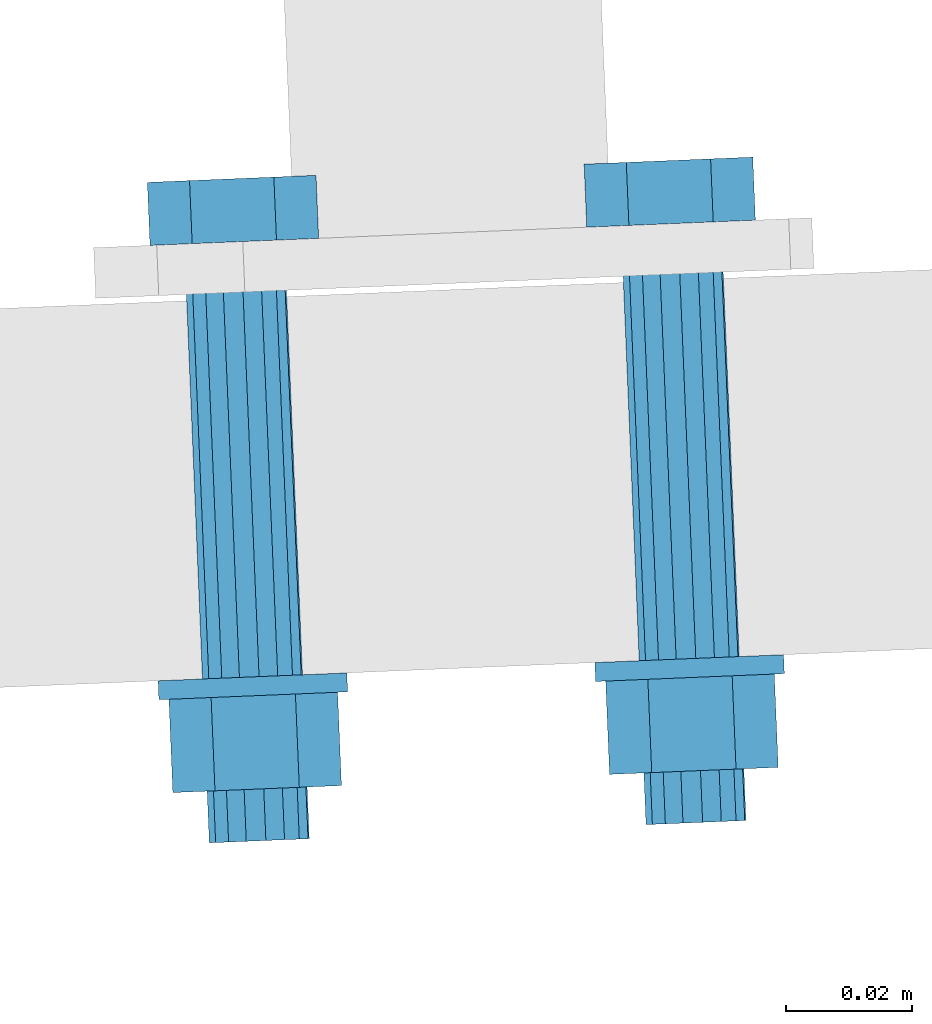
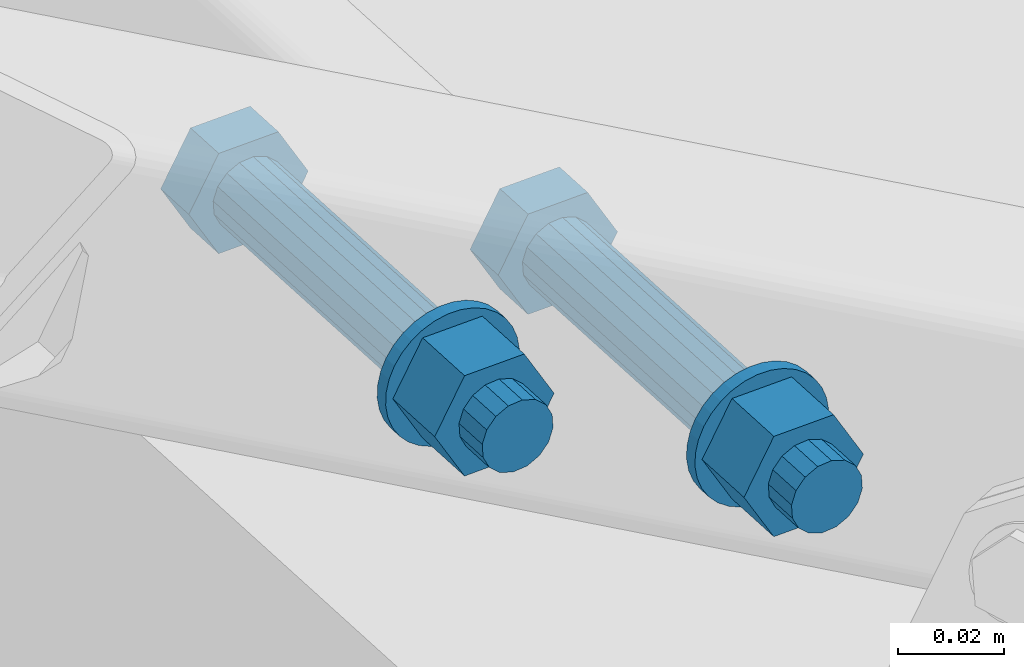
# One storey, part 100 of 288: 1 mechanical fastener.
"""IFC2X3 building model written with IfcOpenShell, lengths in millimetres."""

from ifc_helpers import new_model, entity, si_unit, converted_unit, origin_with_axes, place, context, project, spatial, faceted_brep, element, save


model = new_model("IFC2X3")

# Units and contexts
model_context = context("Model", 3, precision=1e-09, world=origin_with_axes())
ifc_project = project(units=[si_unit("LENGTHUNIT", "METRE", prefix="MILLI"), si_unit("AREAUNIT", "SQUARE_METRE"), si_unit("VOLUMEUNIT", "CUBIC_METRE"), converted_unit("PLANEANGLEUNIT", "DEGREE", entity("IfcPlaneAngleMeasure", 0.01745329), si_unit("PLANEANGLEUNIT", "RADIAN"), dimensions=[0, 0, 0, 0, 0, 0, 0])], contexts=[model_context])

# Site, building, storey
site_placement = place(None, origin_with_axes())
site = spatial("IfcSite", under=ifc_project, at=site_placement, Name="Remont ?wietlik?w nad MC w NCPP w Opolu", CompositionType="ELEMENT")
building_placement = place(site_placement, origin_with_axes())
building = spatial("IfcBuilding", under=site, at=building_placement, Name="Konstrukcja 1", CompositionType="ELEMENT")
storey_placement = place(building_placement, origin_with_axes())
storey = spatial("IfcBuildingStorey", under=building, at=storey_placement, Name="Default Storey", CompositionType="ELEMENT", Elevation=0.0)

# Mechanical fastener
mechanical_fastener_placement = place(None, origin_with_axes())
element("IfcMechanicalFastener", 1, at=mechanical_fastener_placement, inside=storey, ObjectType="-", NominalDiameter=16.0, NominalLength=95.0, context=model_context, shape_type="Brep", body=[
    faceted_brep([(1525.213328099, 2067.778686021, 256.974013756), (1524.796611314, 2077.769999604, 256.974012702), (1531.478306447, 2078.048677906, 245.390925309), (1531.895023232, 2068.057364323, 245.390926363), (1544.841688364, 2078.606036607, 245.390930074), (1545.25840515, 2068.614723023, 245.390931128), (1551.523375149, 2078.884717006, 256.974022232), (1551.940091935, 2068.893403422, 256.974023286), (1544.841680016, 2078.606038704, 268.557109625), (1545.258396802, 2068.61472512, 268.557110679), (1531.478298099, 2078.048680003, 268.55710486), (1531.895014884, 2068.05736642, 268.557105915)], [[[0, 1, 2, 3]], [[3, 2, 4, 5]], [[5, 4, 6, 7]], [[7, 6, 8, 9]], [[9, 8, 10, 11]], [[11, 10, 1, 0]], [[4, 2, 1, 10, 8, 6]], [[0, 3, 5, 7, 9, 11]]]),
    faceted_brep([(1594.435193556, 2070.66578098, 216.974038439), (1594.01847677, 2080.657094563, 216.974037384), (1600.700171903, 2080.935772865, 205.390949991), (1601.116888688, 2070.944459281, 205.390951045), (1614.063553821, 2081.493131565, 205.390954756), (1614.480270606, 2071.501817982, 205.39095581), (1620.745240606, 2081.771811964, 216.974046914), (1621.161957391, 2071.780498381, 216.974047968), (1614.063545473, 2081.493133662, 228.557134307), (1614.480262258, 2071.501820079, 228.557135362), (1600.700163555, 2080.935774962, 228.557129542), (1601.116880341, 2070.944461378, 228.557130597)], [[[0, 1, 2, 3]], [[3, 2, 4, 5]], [[5, 4, 6, 7]], [[7, 6, 8, 9]], [[9, 8, 10, 11]], [[11, 10, 1, 0]], [[4, 2, 1, 10, 8, 6]], [[0, 3, 5, 7, 9, 11]]]),
    faceted_brep([(1545.498880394, 2068.625141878, 252.97402099), (1548.37423595, 1999.684844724, 252.974028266), (1546.317912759, 1999.599079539, 250.627200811), (1543.442557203, 2068.539376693, 250.627193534), (1543.520805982, 1999.482417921, 249.246619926), (1540.645450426, 2068.422715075, 249.246612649), (1540.408749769, 1999.352620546, 249.042466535), (1537.533394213, 2068.2929177, 249.042459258), (1537.455526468, 1999.229447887, 250.045821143), (1534.580170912, 2068.169745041, 250.045813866), (1535.110737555, 1999.131651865, 252.103932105), (1532.235381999, 2068.071949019, 252.103924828), (1533.731355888, 1999.074121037, 254.903470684), (1530.856000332, 2068.014418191, 254.903463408), (1533.52737982, 1999.065613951, 258.01823251), (1530.652024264, 2068.005911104, 258.018225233), (1534.529862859, 1999.107425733, 260.97402333), (1531.654507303, 2068.047722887, 260.974016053), (1536.58618605, 1999.193190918, 263.320850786), (1533.710830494, 2068.133488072, 263.320843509), (1539.383292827, 1999.309852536, 264.701431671), (1536.507937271, 2068.25014969, 264.701424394), (1542.49534904, 1999.439649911, 264.905585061), (1539.619993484, 2068.379947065, 264.905577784), (1545.448572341, 1999.56282257, 263.902230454), (1542.573216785, 2068.503119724, 263.902223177), (1547.793361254, 1999.660618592, 261.844119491), (1544.918005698, 2068.600915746, 261.844112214), (1549.172742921, 1999.71814942, 259.044580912), (1546.297387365, 2068.658446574, 259.044573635), (1549.376718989, 1999.726656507, 255.929819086), (1546.501363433, 2068.666953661, 255.929811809)], [[[0, 1, 2, 3]], [[3, 2, 4, 5]], [[5, 4, 6, 7]], [[7, 6, 8, 9]], [[9, 8, 10, 11]], [[11, 10, 12, 13]], [[13, 12, 14, 15]], [[15, 14, 16, 17]], [[17, 16, 18, 19]], [[19, 18, 20, 21]], [[21, 20, 22, 23]], [[23, 22, 24, 25]], [[25, 24, 26, 27]], [[27, 26, 28, 29]], [[29, 28, 30, 31]], [[31, 30, 1, 0]], [[0, 3, 5, 7, 9, 11, 13, 15, 17, 19, 21, 23, 25, 27, 29, 31]], [[1, 30, 28, 26, 24, 22, 20, 18, 16, 14, 12, 10, 8, 6, 4, 2]]]),
    faceted_brep([(1614.720745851, 2071.512236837, 212.974045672), (1617.596101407, 2002.571939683, 212.974052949), (1615.539778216, 2002.486174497, 210.627225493), (1612.66442266, 2071.426471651, 210.627218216), (1612.742671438, 2002.36951288, 209.246644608), (1609.867315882, 2071.309810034, 209.246637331), (1609.630615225, 2002.239715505, 209.042491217), (1606.755259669, 2071.180012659, 209.04248394), (1606.677391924, 2002.116542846, 210.045845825), (1603.802036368, 2071.05684, 210.045838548), (1604.332603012, 2002.018746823, 212.103956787), (1601.457247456, 2070.959043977, 212.10394951), (1602.953221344, 2001.961215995, 214.903495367), (1600.077865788, 2070.901513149, 214.90348809), (1602.749245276, 2001.952708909, 218.018257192), (1599.87388972, 2070.893006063, 218.018249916), (1603.751728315, 2001.994520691, 220.974048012), (1600.876372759, 2070.934817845, 220.974040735), (1605.808051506, 2002.080285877, 223.320875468), (1602.93269595, 2071.020583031, 223.320868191), (1608.605158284, 2002.196947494, 224.701456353), (1605.729802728, 2071.137244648, 224.701449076), (1611.717214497, 2002.326744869, 224.905609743), (1608.841858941, 2071.267042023, 224.905602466), (1614.670437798, 2002.449917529, 223.902255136), (1611.795082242, 2071.390214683, 223.902247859), (1617.01522671, 2002.547713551, 221.844144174), (1614.139871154, 2071.488010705, 221.844136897), (1618.394608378, 2002.605244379, 219.044605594), (1615.519252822, 2071.545541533, 219.044598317), (1618.598584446, 2002.613751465, 215.929843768), (1615.72322889, 2071.554048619, 215.929836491)], [[[0, 1, 2, 3]], [[3, 2, 4, 5]], [[5, 4, 6, 7]], [[7, 6, 8, 9]], [[9, 8, 10, 11]], [[11, 10, 12, 13]], [[13, 12, 14, 15]], [[15, 14, 16, 17]], [[17, 16, 18, 19]], [[19, 18, 20, 21]], [[21, 20, 22, 23]], [[23, 22, 24, 25]], [[25, 24, 26, 27]], [[27, 26, 28, 29]], [[29, 28, 30, 31]], [[31, 30, 1, 0]], [[0, 3, 5, 7, 9, 11, 13, 15, 17, 19, 21, 23, 25, 27, 29, 31]], [[1, 30, 28, 26, 24, 22, 20, 18, 16, 14, 12, 10, 8, 6, 4, 2]]]),
    faceted_brep([(1554.431149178, 1999.937465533, 249.474030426), (1554.556164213, 1996.940071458, 249.474030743), (1552.844868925, 1996.86869666, 247.083842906), (1552.71985389, 1999.866090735, 247.083842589), (1550.70055823, 1996.779261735, 245.073729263), (1550.575543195, 1999.77665581, 245.073728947), (1548.205636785, 1996.675203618, 243.520937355), (1548.08062175, 1999.672597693, 243.520937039), (1545.455983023, 1996.560521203, 242.485140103), (1545.330967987, 1999.557915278, 242.485139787), (1542.557264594, 1996.439621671, 242.006142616), (1542.432249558, 1999.437015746, 242.006142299), (1539.620877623, 1996.317151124, 242.102352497), (1539.495862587, 1999.314545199, 242.10235218), (1536.759665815, 1996.197816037, 242.770072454), (1536.634650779, 1999.195210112, 242.770072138), (1534.083583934, 1996.086202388, 243.983642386), (1533.958568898, 1999.083596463, 243.98364207), (1531.695472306, 1995.98659943, 245.696425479), (1531.570457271, 1998.983993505, 245.696425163), (1529.687104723, 1995.902834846, 247.84260044), (1529.562089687, 1998.900228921, 247.842600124), (1528.135661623, 1995.838127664, 250.339690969), (1528.010646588, 1998.835521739, 250.339690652), (1527.100764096, 1995.794964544, 253.091735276), (1526.97574906, 1998.792358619, 253.09173496), (1526.622182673, 1995.77500422, 255.992973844), (1526.497167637, 1998.772398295, 255.992973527), (1526.718308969, 1995.779013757, 258.9319137), (1526.593293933, 1998.776407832, 258.931913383), (1527.385448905, 1995.80683907, 261.795613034), (1527.260433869, 1998.804233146, 261.795612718), (1528.597964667, 1995.857410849, 264.474021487), (1528.472949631, 1998.854804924, 264.47402117), (1530.309259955, 1995.928785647, 266.864209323), (1530.184244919, 1998.926179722, 266.864209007), (1532.45357065, 1996.018220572, 268.874322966), (1532.328555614, 1999.015614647, 268.874322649), (1534.948492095, 1996.12227869, 270.427114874), (1534.823477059, 1999.119672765, 270.427114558), (1537.698145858, 1996.236961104, 271.462912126), (1537.573130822, 1999.234355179, 271.462911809), (1540.596864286, 1996.357860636, 271.941909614), (1540.471849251, 1999.355254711, 271.941909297), (1543.533251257, 1996.480331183, 271.845699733), (1543.408236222, 1999.477725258, 271.845699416), (1546.394463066, 1996.59966627, 271.177979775), (1546.26944803, 1999.597060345, 271.177979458), (1549.070544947, 1996.711279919, 269.964409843), (1548.945529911, 1999.708673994, 269.964409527), (1551.458656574, 1996.810882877, 268.25162675), (1551.333641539, 1999.808276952, 268.251626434), (1553.467024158, 1996.894647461, 266.105451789), (1553.342009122, 1999.892041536, 266.105451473), (1555.018467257, 1996.959354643, 263.608361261), (1554.893452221, 1999.956748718, 263.608360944), (1556.053364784, 1997.002517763, 260.856316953), (1555.928349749, 1999.999911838, 260.856316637), (1556.531946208, 1997.022478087, 257.955078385), (1556.406931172, 2000.019872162, 257.955078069), (1556.435819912, 1997.01846855, 255.016138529), (1556.310804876, 2000.015862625, 255.016138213), (1555.768679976, 1996.990643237, 252.152439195), (1555.64366494, 1999.988037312, 252.152438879)], [[[0, 1, 2, 3]], [[3, 2, 4, 5]], [[5, 4, 6, 7]], [[7, 6, 8, 9]], [[9, 8, 10, 11]], [[11, 10, 12, 13]], [[13, 12, 14, 15]], [[15, 14, 16, 17]], [[17, 16, 18, 19]], [[19, 18, 20, 21]], [[21, 20, 22, 23]], [[23, 22, 24, 25]], [[25, 24, 26, 27]], [[27, 26, 28, 29]], [[29, 28, 30, 31]], [[31, 30, 32, 33]], [[33, 32, 34, 35]], [[35, 34, 36, 37]], [[37, 36, 38, 39]], [[39, 38, 40, 41]], [[41, 40, 42, 43]], [[43, 42, 44, 45]], [[45, 44, 46, 47]], [[47, 46, 48, 49]], [[49, 48, 50, 51]], [[51, 50, 52, 53]], [[53, 52, 54, 55]], [[55, 54, 56, 57]], [[57, 56, 58, 59]], [[59, 58, 60, 61]], [[61, 60, 62, 63]], [[63, 62, 1, 0]], [[0, 3, 5, 7, 9, 11, 13, 15, 17, 19, 21, 23, 25, 27, 29, 31, 33, 35, 37, 39, 41, 43, 45, 47, 49, 51, 53, 55, 57, 59, 61, 63]], [[1, 62, 60, 58, 56, 54, 52, 50, 48, 46, 44, 42, 40, 38, 36, 34, 32, 30, 28, 26, 24, 22, 20, 18, 16, 14, 12, 10, 8, 6, 4, 2]]]),
    faceted_brep([(1623.653014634, 2002.824560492, 209.474055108), (1623.77802967, 1999.827166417, 209.474055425), (1622.066734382, 1999.755791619, 207.083867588), (1621.941719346, 2002.753185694, 207.083867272), (1619.922423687, 1999.666356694, 205.073753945), (1619.797408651, 2002.663750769, 205.073753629), (1617.427502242, 1999.562298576, 203.520962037), (1617.302487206, 2002.559692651, 203.520961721), (1614.677848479, 1999.447616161, 202.485164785), (1614.552833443, 2002.445010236, 202.485164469), (1611.77913005, 1999.32671663, 202.006167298), (1611.654115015, 2002.324110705, 202.006166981), (1608.84274308, 1999.204246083, 202.102377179), (1608.717728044, 2002.201640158, 202.102376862), (1605.981531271, 1999.084910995, 202.770097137), (1605.856516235, 2002.08230507, 202.77009682), (1603.30544939, 1998.973297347, 203.983667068), (1603.180434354, 2001.970691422, 203.983666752), (1600.917337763, 1998.873694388, 205.696450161), (1600.792322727, 2001.871088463, 205.696449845), (1598.908970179, 1998.789929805, 207.842625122), (1598.783955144, 2001.78732388, 207.842624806), (1597.35752708, 1998.725222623, 210.339715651), (1597.232512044, 2001.722616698, 210.339715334), (1596.322629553, 1998.682059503, 213.091759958), (1596.197614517, 2001.679453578, 213.091759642), (1595.844048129, 1998.662099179, 215.992998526), (1595.719033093, 2001.659493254, 215.99299821), (1595.940174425, 1998.666108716, 218.931938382), (1595.81515939, 2001.663502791, 218.931938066), (1596.607314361, 1998.693934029, 221.795637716), (1596.482299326, 2001.691328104, 221.7956374), (1597.819830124, 1998.744505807, 224.474046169), (1597.694815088, 2001.741899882, 224.474045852), (1599.531125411, 1998.815880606, 226.864234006), (1599.406110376, 2001.813274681, 226.864233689), (1601.675436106, 1998.905315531, 228.874347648), (1601.550421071, 2001.902709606, 228.874347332), (1604.170357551, 1999.009373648, 230.427139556), (1604.045342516, 2002.006767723, 230.42713924), (1606.920011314, 1999.124056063, 231.462936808), (1606.794996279, 2002.121450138, 231.462936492), (1609.818729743, 1999.244955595, 231.941934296), (1609.693714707, 2002.24234967, 231.941933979), (1612.755116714, 1999.367426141, 231.845724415), (1612.630101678, 2002.364820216, 231.845724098), (1615.616328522, 1999.486761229, 231.178004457), (1615.491313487, 2002.484155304, 231.17800414), (1618.292410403, 1999.598374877, 229.964434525), (1618.167395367, 2002.595768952, 229.964434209), (1620.680522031, 1999.697977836, 228.251651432), (1620.555506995, 2002.695371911, 228.251651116), (1622.688889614, 1999.781742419, 226.105476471), (1622.563874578, 2002.779136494, 226.105476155), (1624.240332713, 1999.846449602, 223.608385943), (1624.115317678, 2002.843843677, 223.608385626), (1625.275230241, 1999.889612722, 220.856341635), (1625.150215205, 2002.887006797, 220.856341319), (1625.753811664, 1999.909573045, 217.955103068), (1625.628796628, 2002.90696712, 217.955102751), (1625.657685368, 1999.905563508, 215.016163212), (1625.532670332, 2002.902957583, 215.016162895), (1624.990545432, 1999.877738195, 212.152463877), (1624.865530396, 2002.87513227, 212.152463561)], [[[0, 1, 2, 3]], [[3, 2, 4, 5]], [[5, 4, 6, 7]], [[7, 6, 8, 9]], [[9, 8, 10, 11]], [[11, 10, 12, 13]], [[13, 12, 14, 15]], [[15, 14, 16, 17]], [[17, 16, 18, 19]], [[19, 18, 20, 21]], [[21, 20, 22, 23]], [[23, 22, 24, 25]], [[25, 24, 26, 27]], [[27, 26, 28, 29]], [[29, 28, 30, 31]], [[31, 30, 32, 33]], [[33, 32, 34, 35]], [[35, 34, 36, 37]], [[37, 36, 38, 39]], [[39, 38, 40, 41]], [[41, 40, 42, 43]], [[43, 42, 44, 45]], [[45, 44, 46, 47]], [[47, 46, 48, 49]], [[49, 48, 50, 51]], [[51, 50, 52, 53]], [[53, 52, 54, 55]], [[55, 54, 56, 57]], [[57, 56, 58, 59]], [[59, 58, 60, 61]], [[61, 60, 62, 63]], [[63, 62, 1, 0]], [[0, 3, 5, 7, 9, 11, 13, 15, 17, 19, 21, 23, 25, 27, 29, 31, 33, 35, 37, 39, 41, 43, 45, 47, 49, 51, 53, 55, 57, 59, 61, 63]], [[1, 62, 60, 58, 56, 54, 52, 50, 48, 46, 44, 42, 40, 38, 36, 34, 32, 30, 28, 26, 24, 22, 20, 18, 16, 14, 12, 10, 8, 6, 4, 2]]]),
    faceted_brep([(1528.830423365, 1981.05423835, 256.974022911), (1528.213682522, 1995.841382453, 256.97402135), (1534.895377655, 1996.120060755, 245.390933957), (1535.512118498, 1981.332916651, 245.390935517), (1548.258759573, 1996.677419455, 245.390938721), (1548.875500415, 1981.890275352, 245.390940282), (1554.940446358, 1996.956099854, 256.97403088), (1555.5571872, 1982.168955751, 256.97403244), (1548.258751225, 1996.677421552, 268.557118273), (1548.875492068, 1981.890277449, 268.557119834), (1534.895369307, 1996.120062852, 268.557113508), (1535.51211015, 1981.332918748, 268.557115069)], [[[0, 1, 2, 3]], [[3, 2, 4, 5]], [[5, 4, 6, 7]], [[7, 6, 8, 9]], [[9, 8, 10, 11]], [[11, 10, 1, 0]], [[4, 2, 1, 10, 8, 6]], [[0, 3, 5, 7, 9, 11]]]),
    faceted_brep([(1598.052288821, 1983.941333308, 216.974047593), (1597.435547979, 1998.728477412, 216.974046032), (1604.117243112, 1999.007155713, 205.390958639), (1604.733983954, 1984.22001161, 205.3909602), (1617.480625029, 1999.564514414, 205.390963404), (1618.097365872, 1984.777370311, 205.390964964), (1624.162311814, 1999.843194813, 216.974055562), (1624.779052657, 1985.05605071, 216.974057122), (1617.480616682, 1999.564516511, 228.557142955), (1618.097357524, 1984.777372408, 228.557144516), (1604.117234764, 1999.00715781, 228.55713819), (1604.733975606, 1984.220013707, 228.557139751)], [[[0, 1, 2, 3]], [[3, 2, 4, 5]], [[5, 4, 6, 7]], [[7, 6, 8, 9]], [[9, 8, 10, 11]], [[11, 10, 1, 0]], [[4, 2, 1, 10, 8, 6]], [[0, 3, 5, 7, 9, 11]]]),
    faceted_brep([(1549.116007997, 1981.899918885, 252.974030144), (1549.457706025, 1973.707275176, 252.974031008), (1547.401382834, 1973.62150999, 250.627203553), (1547.059684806, 1981.814153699, 250.627202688), (1544.604276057, 1973.504848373, 249.246622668), (1544.262578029, 1981.697492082, 249.246621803), (1541.492219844, 1973.375050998, 249.042469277), (1541.150521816, 1981.567694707, 249.042468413), (1538.538996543, 1973.251878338, 250.045823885), (1538.197298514, 1981.444522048, 250.04582302), (1536.19420763, 1973.154082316, 252.103934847), (1535.852509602, 1981.346726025, 252.103933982), (1534.814825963, 1973.096551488, 254.903473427), (1534.473127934, 1981.289195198, 254.903472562), (1534.610849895, 1973.088044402, 258.018235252), (1534.269151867, 1981.280688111, 258.018234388), (1535.613332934, 1973.129856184, 260.974026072), (1535.271634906, 1981.322499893, 260.974025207), (1537.669656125, 1973.21562137, 263.320853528), (1537.327958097, 1981.408265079, 263.320852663), (1540.466762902, 1973.332282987, 264.701434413), (1540.125064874, 1981.524926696, 264.701433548), (1543.578819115, 1973.462080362, 264.905587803), (1543.237121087, 1981.654724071, 264.905586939), (1546.532042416, 1973.585253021, 263.902233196), (1546.190344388, 1981.777896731, 263.902232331), (1548.876831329, 1973.683049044, 261.844122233), (1548.535133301, 1981.875692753, 261.844121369), (1550.256212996, 1973.740579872, 259.044583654), (1549.914514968, 1981.933223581, 259.044582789), (1550.460189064, 1973.749086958, 255.929821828), (1550.118491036, 1981.941730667, 255.929820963)], [[[0, 1, 2, 3]], [[3, 2, 4, 5]], [[5, 4, 6, 7]], [[7, 6, 8, 9]], [[9, 8, 10, 11]], [[11, 10, 12, 13]], [[13, 12, 14, 15]], [[15, 14, 16, 17]], [[17, 16, 18, 19]], [[19, 18, 20, 21]], [[21, 20, 22, 23]], [[23, 22, 24, 25]], [[25, 24, 26, 27]], [[27, 26, 28, 29]], [[29, 28, 30, 31]], [[31, 30, 1, 0]], [[0, 3, 5, 7, 9, 11, 13, 15, 17, 19, 21, 23, 25, 27, 29, 31]], [[1, 30, 28, 26, 24, 22, 20, 18, 16, 14, 12, 10, 8, 6, 4, 2]]]),
    faceted_brep([(1618.337873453, 1984.787013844, 212.974054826), (1618.679571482, 1976.594370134, 212.974055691), (1616.623248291, 1976.508604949, 210.627228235), (1616.281550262, 1984.701248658, 210.62722737), (1613.826141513, 1976.391943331, 209.24664735), (1613.484443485, 1984.584587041, 209.246646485), (1610.7140853, 1976.262145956, 209.042493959), (1610.372387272, 1984.454789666, 209.042493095), (1607.760861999, 1976.138973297, 210.045848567), (1607.419163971, 1984.331617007, 210.045847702), (1605.416073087, 1976.041177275, 212.103959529), (1605.074375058, 1984.233820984, 212.103958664), (1604.036691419, 1975.983646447, 214.903498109), (1603.694993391, 1984.176290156, 214.903497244), (1603.832715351, 1975.97513936, 218.018259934), (1603.491017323, 1984.16778307, 218.01825907), (1604.83519839, 1976.016951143, 220.974050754), (1604.493500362, 1984.209594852, 220.974049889), (1606.891521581, 1976.102716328, 223.32087821), (1606.549823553, 1984.295360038, 223.320877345), (1609.688628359, 1976.219377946, 224.701459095), (1609.34693033, 1984.412021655, 224.70145823), (1612.800684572, 1976.349175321, 224.905612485), (1612.458986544, 1984.54181903, 224.905611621), (1615.753907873, 1976.47234798, 223.902257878), (1615.412209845, 1984.664991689, 223.902257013), (1618.098696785, 1976.570144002, 221.844146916), (1617.756998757, 1984.762787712, 221.844146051), (1619.478078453, 1976.62767483, 219.044608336), (1619.136380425, 1984.82031854, 219.044607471), (1619.682054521, 1976.636181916, 215.92984651), (1619.340356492, 1984.828825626, 215.929845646)], [[[0, 1, 2, 3]], [[3, 2, 4, 5]], [[5, 4, 6, 7]], [[7, 6, 8, 9]], [[9, 8, 10, 11]], [[11, 10, 12, 13]], [[13, 12, 14, 15]], [[15, 14, 16, 17]], [[17, 16, 18, 19]], [[19, 18, 20, 21]], [[21, 20, 22, 23]], [[23, 22, 24, 25]], [[25, 24, 26, 27]], [[27, 26, 28, 29]], [[29, 28, 30, 31]], [[31, 30, 1, 0]], [[0, 3, 5, 7, 9, 11, 13, 15, 17, 19, 21, 23, 25, 27, 29, 31]], [[1, 30, 28, 26, 24, 22, 20, 18, 16, 14, 12, 10, 8, 6, 4, 2]]]),
])

save(model, "model.ifc")
